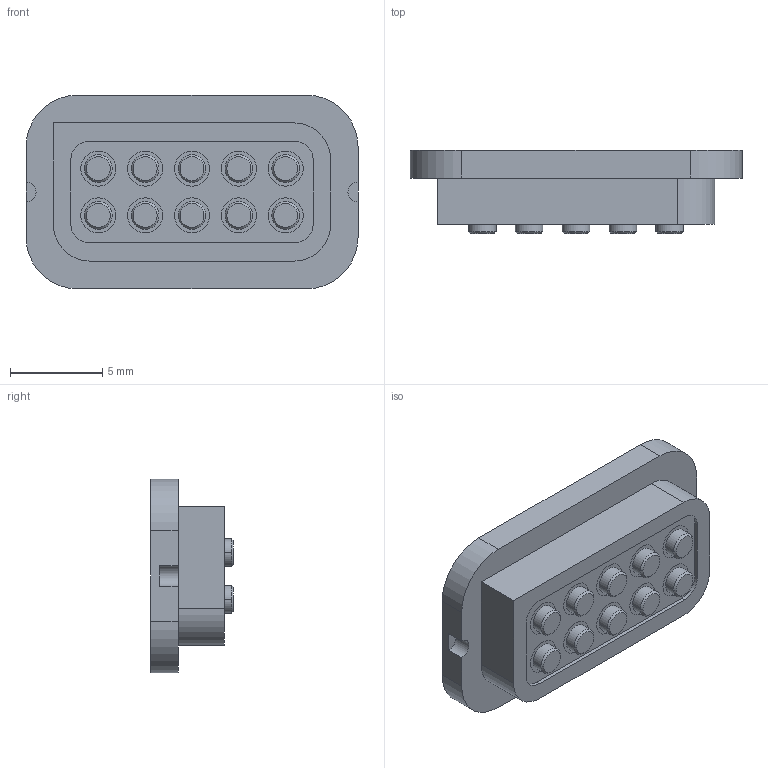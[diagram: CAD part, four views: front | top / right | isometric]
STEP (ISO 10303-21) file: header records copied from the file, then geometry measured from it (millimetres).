
FILE_DESCRIPTION((''),'2;1');
FILE_NAME('FEMALE_ASM','2020-01-10T',('lenovo'),(''),'PRO/ENGINEER BY PARAMETRIC TECHNOLOGY CORPORATION, 2008380','PRO/ENGINEER BY PARAMETRIC TECHNOLOGY CORPORATION, 2008380','');
FILE_SCHEMA(('CONFIG_CONTROL_DESIGN'));
Length unit declared in the file: millimetre
Products named in the file (4): HOUSING; PIN; WATERPROOFGLUE; FEMALE_ASM
Assembly tree (12 placements, depth 2):
  FEMALE_ASM
    HOUSING
    PIN  x10
    WATERPROOFGLUE
Bounding box: 18 x 4.5 x 10.5 mm (x, y, z)
Volume: 602.5 mm3; surface area: 1226.7 mm2
Topology: 12 solids, 12 shells, 301 faces, 629 edges, 414 vertices
Faces by surface type: cylinder 177, plane 104, cone 20
Entity records: 2833 total; most frequent: DIRECTION 525, CARTESIAN_POINT 460, ORIENTED_EDGE 430, EDGE_CURVE 215, AXIS2_PLACEMENT_3D 209, VERTEX_POINT 144, EDGE_LOOP 113, CIRCLE 108
